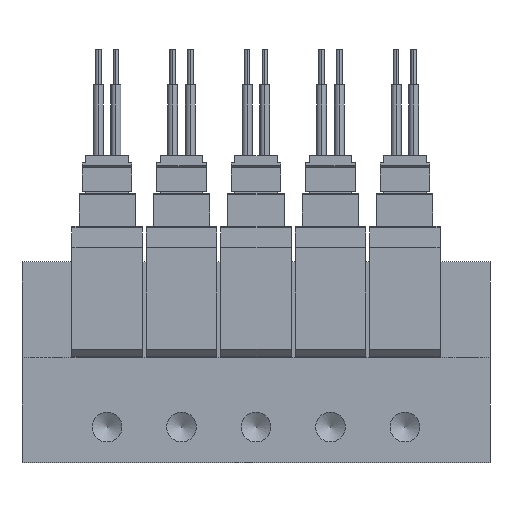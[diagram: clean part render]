
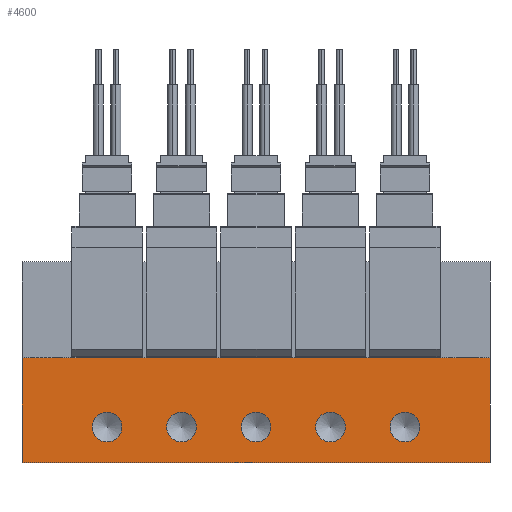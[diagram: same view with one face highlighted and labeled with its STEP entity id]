
A CAD part, front view. The second image highlights one B-rep face of the part: STEP entity #4600.
In plain terms, the highlighted planar face has unit normal (0, -1, 0).
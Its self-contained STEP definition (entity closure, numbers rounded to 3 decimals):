
#4600=ADVANCED_FACE('',(#7168,#7169,#7170,#7171,#7172,#7173),#7174,.F.);
#7168=FACE_BOUND('',#12380,.T.);
#7169=FACE_BOUND('',#12381,.T.);
#7170=FACE_BOUND('',#12382,.T.);
#7171=FACE_BOUND('',#12383,.T.);
#7172=FACE_BOUND('',#12384,.T.);
#7173=FACE_OUTER_BOUND('',#12385,.T.);
#7174=PLANE('',#12386);
#12380=EDGE_LOOP('',(#19160));
#12381=EDGE_LOOP('',(#19161));
#12382=EDGE_LOOP('',(#19162));
#12383=EDGE_LOOP('',(#19163));
#12384=EDGE_LOOP('',(#19164));
#12385=EDGE_LOOP('',(#19165,#19166,#19167,#19168));
#12386=AXIS2_PLACEMENT_3D('',#19169,#19170,#19171);
#19160=ORIENTED_EDGE('',*,*,#39579,.F.);
#19161=ORIENTED_EDGE('',*,*,#39603,.F.);
#19162=ORIENTED_EDGE('',*,*,#39604,.F.);
#19163=ORIENTED_EDGE('',*,*,#39605,.F.);
#19164=ORIENTED_EDGE('',*,*,#39606,.F.);
#19165=ORIENTED_EDGE('',*,*,#39607,.F.);
#19166=ORIENTED_EDGE('',*,*,#39608,.F.);
#19167=ORIENTED_EDGE('',*,*,#39609,.T.);
#19168=ORIENTED_EDGE('',*,*,#39601,.T.);
#19169=CARTESIAN_POINT('',(-66.0,0.,14.8));
#19170=DIRECTION('',(0.0,1.0,0.));
#19171=DIRECTION('',(0.0,0.,1.0));
#39579=EDGE_CURVE('',#46291,#46291,#46292,.T.);
#39601=EDGE_CURVE('',#46332,#46330,#46333,.T.);
#39603=EDGE_CURVE('',#46335,#46335,#46336,.T.);
#39604=EDGE_CURVE('',#46337,#46337,#46338,.T.);
#39605=EDGE_CURVE('',#46339,#46339,#46340,.T.);
#39606=EDGE_CURVE('',#46341,#46341,#46342,.T.);
#39607=EDGE_CURVE('',#46343,#46330,#46344,.T.);
#39608=EDGE_CURVE('',#46345,#46343,#46346,.T.);
#39609=EDGE_CURVE('',#46345,#46332,#46347,.T.);
#46291=VERTEX_POINT('',#57683);
#46292=CIRCLE('',#57684,2.1);
#46330=VERTEX_POINT('',#57735);
#46332=VERTEX_POINT('',#57738);
#46333=LINE('',#57739,#57740);
#46335=VERTEX_POINT('',#57743);
#46336=CIRCLE('',#57744,2.1);
#46337=VERTEX_POINT('',#57745);
#46338=CIRCLE('',#57746,2.1);
#46339=VERTEX_POINT('',#57747);
#46340=CIRCLE('',#57748,2.1);
#46341=VERTEX_POINT('',#57749);
#46342=CIRCLE('',#57750,2.1);
#46343=VERTEX_POINT('',#57751);
#46344=LINE('',#57752,#57753);
#46345=VERTEX_POINT('',#57754);
#46346=LINE('',#57755,#57756);
#46347=LINE('',#57757,#57758);
#57683=CARTESIAN_POINT('',(-54.0,0.,2.9));
#57684=AXIS2_PLACEMENT_3D('',#73642,#73643,#73644);
#57735=CARTESIAN_POINT('',(0.0,0.0,0.0));
#57738=CARTESIAN_POINT('',(-66.0,0.0,0.0));
#57739=CARTESIAN_POINT('',(-66.0,0.0,0.0));
#57740=VECTOR('',#73680,1.0);
#57743=CARTESIAN_POINT('',(-43.5,0.,2.9));
#57744=AXIS2_PLACEMENT_3D('',#73682,#73683,#73684);
#57745=CARTESIAN_POINT('',(-33.0,0.,2.9));
#57746=AXIS2_PLACEMENT_3D('',#73685,#73686,#73687);
#57747=CARTESIAN_POINT('',(-22.5,0.,2.9));
#57748=AXIS2_PLACEMENT_3D('',#73688,#73689,#73690);
#57749=CARTESIAN_POINT('',(-12.0,0.,2.9));
#57750=AXIS2_PLACEMENT_3D('',#73691,#73692,#73693);
#57751=CARTESIAN_POINT('',(0.0,0.,14.8));
#57752=CARTESIAN_POINT('',(0.0,0.,14.8));
#57753=VECTOR('',#73694,1.0);
#57754=CARTESIAN_POINT('',(-66.0,0.,14.8));
#57755=CARTESIAN_POINT('',(-66.0,0.,14.8));
#57756=VECTOR('',#73695,1.0);
#57757=CARTESIAN_POINT('',(-66.0,0.,14.8));
#57758=VECTOR('',#73696,1.0);
#73642=CARTESIAN_POINT('',(-54.0,0.0,5.0));
#73643=DIRECTION('',(0.0,-1.0,0.));
#73644=DIRECTION('',(0.0,0.,-1.0));
#73680=DIRECTION('',(1.0,0.0,0.0));
#73682=CARTESIAN_POINT('',(-43.5,0.0,5.0));
#73683=DIRECTION('',(0.0,-1.0,0.));
#73684=DIRECTION('',(0.0,0.,-1.0));
#73685=CARTESIAN_POINT('',(-33.0,0.0,5.0));
#73686=DIRECTION('',(0.0,-1.0,0.));
#73687=DIRECTION('',(0.0,0.,-1.0));
#73688=CARTESIAN_POINT('',(-22.5,0.0,5.0));
#73689=DIRECTION('',(0.0,-1.0,0.));
#73690=DIRECTION('',(0.0,0.,-1.0));
#73691=CARTESIAN_POINT('',(-12.0,0.0,5.0));
#73692=DIRECTION('',(0.0,-1.0,0.));
#73693=DIRECTION('',(0.0,0.,-1.0));
#73694=DIRECTION('',(0.0,0.,-1.0));
#73695=DIRECTION('',(1.0,0.0,0.0));
#73696=DIRECTION('',(0.0,0.,-1.0));
